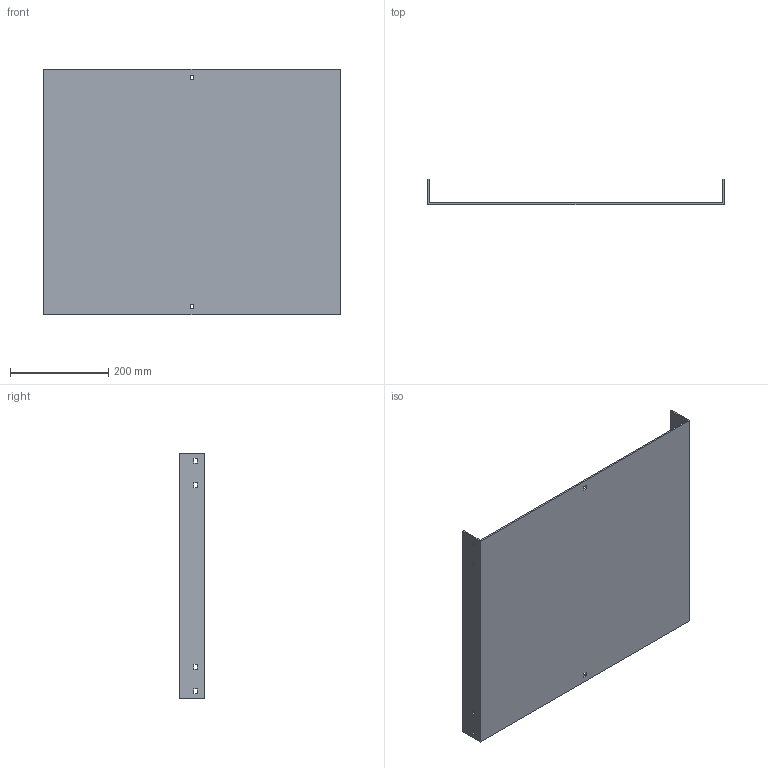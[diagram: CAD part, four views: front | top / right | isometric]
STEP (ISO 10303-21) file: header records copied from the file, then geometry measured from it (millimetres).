
FILE_DESCRIPTION (( 'STEP AP214' ), '1' );
FILE_NAME ('03F7B600.step', '2025-02-21T13:24:59', ( '' ), ( '' ), 'SwSTEP 2.0', 'SolidWorks 2023', '' );
FILE_SCHEMA (( 'AUTOMOTIVE_DESIGN' ));
Length unit declared in the file: millimetre
Products named in the file (1): 03F7B600
Bounding box: 604 x 52 x 500 mm (x, y, z)
Volume: 1224380.5 mm3; surface area: 709222 mm2
Topology: 1 solids, 1 shells, 50 faces, 144 edges, 96 vertices
Faces by surface type: plane 50
Entity records: 1671 total; most frequent: CARTESIAN_POINT 291, ORIENTED_EDGE 288, DIRECTION 246, LINE 144, EDGE_CURVE 144, VECTOR 144, VERTEX_POINT 96, EDGE_LOOP 70
